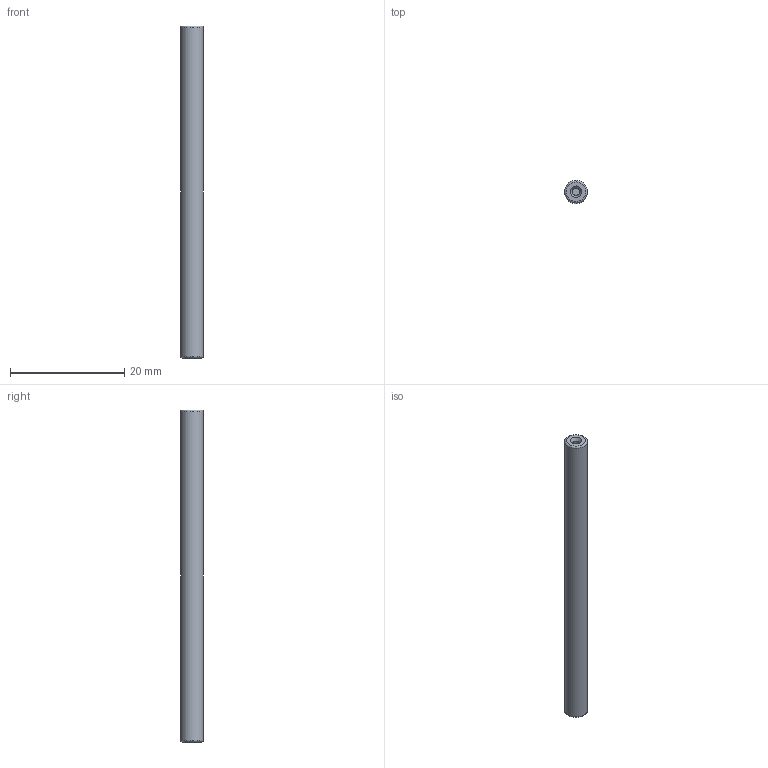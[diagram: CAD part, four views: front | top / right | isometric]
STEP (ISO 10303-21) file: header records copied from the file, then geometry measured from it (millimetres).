
FILE_DESCRIPTION(/* description */ (''),/* implementation_level */ '2;1');
FILE_NAME(/* name */ 'LM0830-015-Rod.stp',/* time_stamp */ '2017-09-06T14:06:29+02:00',/* author */ ('DR. FRITZ FAULHABER GmbH & Co. KG'),/* organization */ ('DR. FRITZ FAULHABER GmbH & Co. KG'),/* preprocessor_version */ 'ST-DEVELOPER v16',/* originating_system */ 'SIEMENS PLM Software NX 10.0',/* authorisation */ '');
FILE_SCHEMA (('AUTOMOTIVE_DESIGN { 1 0 10303 214 3 1 1 1 }'));
Length unit declared in the file: millimetre
Products named in the file (1): Alle_Motoren
Bounding box: 4 x 4 x 58 mm (x, y, z)
Volume: 721.1 mm3; surface area: 769 mm2
Topology: 1 solids, 1 shells, 11 faces, 20 edges, 13 vertices
Faces by surface type: plane 4, cylinder 3, cone 2, torus 2
Full cylindrical faces by diameter (mm): 1.25 x2, 4 x1
Entity records: 238 total; most frequent: DIRECTION 44, CARTESIAN_POINT 32, AXIS2_PLACEMENT_3D 22, EDGE_LOOP 20, ORIENTED_EDGE 20, FACE_BOUND 18, ADVANCED_FACE 11, VERTEX_POINT 10
